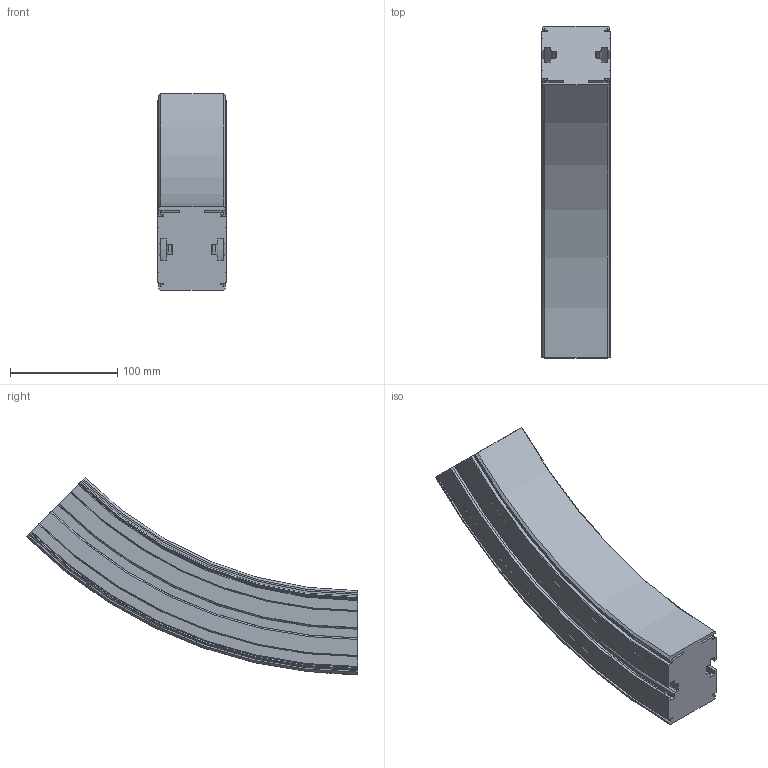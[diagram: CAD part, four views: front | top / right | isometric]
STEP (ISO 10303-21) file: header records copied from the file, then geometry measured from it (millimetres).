
FILE_DESCRIPTION(/* description */ ('VERTIKALKURVA S620 R400'),/* implementation_level */ '2;1');
FILE_NAME(/* name */ '\\carryline.intra\privat\users\mathias\Desktop\Tillfälliga filer\620-5645+620-2000-NER-01.stp',/* time_stamp */ '2018-12-05T15:57:49+01:00',/* author */ ('MD'),/* organization */ ('CARRYLINE'),/* preprocessor_version */ 'ST-DEVELOPER v17',/* originating_system */ 'Autodesk Inventor 2018',/* authorisation */ '');
FILE_SCHEMA (('AUTOMOTIVE_DESIGN { 1 0 10303 214 3 1 1 }'));
Length unit declared in the file: millimetre
Products named in the file (1): 620-5645+620-2000-NER-01
Bounding box: 64 x 309.71 x 183.44 mm (x, y, z)
Volume: 1400898.3 mm3; surface area: 157826.4 mm2
Topology: 1 solids, 1 shells, 149 faces, 426 edges, 284 vertices
Faces by surface type: plane 54, cylinder 37, torus 28, cone 16, bspline 14
Entity records: 9542 total; most frequent: CARTESIAN_POINT 5522, ORIENTED_EDGE 852, DIRECTION 836, EDGE_CURVE 426, AXIS2_PLACEMENT_3D 315, VERTEX_POINT 284, LINE 206, VECTOR 206
